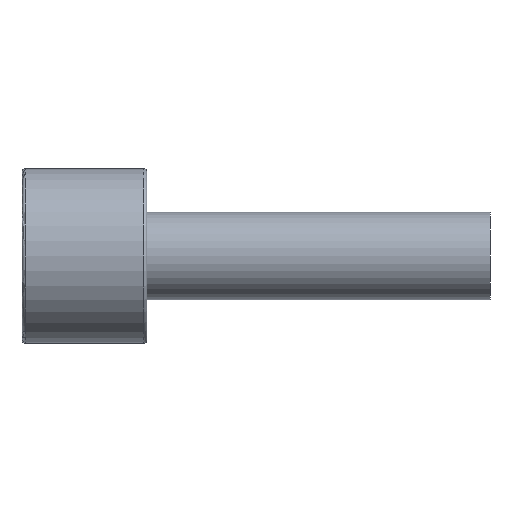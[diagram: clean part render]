
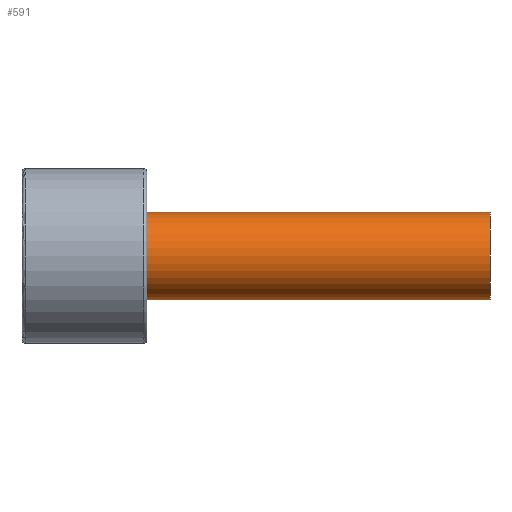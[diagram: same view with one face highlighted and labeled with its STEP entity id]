
A CAD part, front view. The second image highlights one B-rep face of the part: STEP entity #591.
In plain terms, the highlighted cylindrical face has radius 7 mm (diameter 14 mm), a partial arc.
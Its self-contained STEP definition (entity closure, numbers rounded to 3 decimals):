
#425=CARTESIAN_POINT('Vertex',(75.,0.,7.)) ;
#428=CARTESIAN_POINT('Axis2P3D Location',(75.,0.,0.)) ;
#432=CARTESIAN_POINT('Vertex',(75.,-7.,0.)) ;
#435=CARTESIAN_POINT('Axis2P3D Location',(75.,0.,0.)) ;
#439=CARTESIAN_POINT('Vertex',(75.,0.,-7.)) ;
#531=CARTESIAN_POINT('Line Origine',(75.,0.,7.)) ;
#535=CARTESIAN_POINT('Vertex',(20.,0.,7.)) ;
#538=CARTESIAN_POINT('Line Origine',(75.,0.,-7.)) ;
#542=CARTESIAN_POINT('Vertex',(20.,0.,-7.)) ;
#566=CARTESIAN_POINT('Axis2P3D Location',(75.,0.,0.)) ;
#571=CARTESIAN_POINT('Axis2P3D Location',(20.,0.,0.)) ;
#575=CARTESIAN_POINT('Vertex',(20.,-7.,0.)) ;
#578=CARTESIAN_POINT('Axis2P3D Location',(20.,0.,0.)) ;
#429=DIRECTION('Axis2P3D Direction',(1.,0.,-0.)) ;
#436=DIRECTION('Axis2P3D Direction',(1.,0.,-0.)) ;
#532=DIRECTION('Vector Direction',(-1.,0.,0.)) ;
#539=DIRECTION('Vector Direction',(-1.,0.,0.)) ;
#567=DIRECTION('Axis2P3D Direction',(-1.,-0.,-0.)) ;
#568=DIRECTION('Axis2P3D XDirection',(0.,0.,-1.)) ;
#572=DIRECTION('Axis2P3D Direction',(-1.,-0.,-0.)) ;
#579=DIRECTION('Axis2P3D Direction',(-1.,-0.,-0.)) ;
#430=AXIS2_PLACEMENT_3D('Circle Axis2P3D',#428,#429,$) ;
#437=AXIS2_PLACEMENT_3D('Circle Axis2P3D',#435,#436,$) ;
#569=AXIS2_PLACEMENT_3D('Cylinder Axis2P3D',#566,#567,#568) ;
#573=AXIS2_PLACEMENT_3D('Circle Axis2P3D',#571,#572,$) ;
#580=AXIS2_PLACEMENT_3D('Circle Axis2P3D',#578,#579,$) ;
#584=ORIENTED_EDGE('',*,*,#544,.T.) ;
#585=ORIENTED_EDGE('',*,*,#441,.F.) ;
#586=ORIENTED_EDGE('',*,*,#434,.F.) ;
#587=ORIENTED_EDGE('',*,*,#537,.T.) ;
#588=ORIENTED_EDGE('',*,*,#577,.T.) ;
#589=ORIENTED_EDGE('',*,*,#582,.T.) ;
#533=VECTOR('Line Direction',#532,1.) ;
#540=VECTOR('Line Direction',#539,1.) ;
#591=ADVANCED_FACE('367-14X75',(#590),#570,.T.) ;
#431=CIRCLE('generated circle',#430,7.) ;
#438=CIRCLE('generated circle',#437,7.) ;
#574=CIRCLE('generated circle',#573,7.) ;
#581=CIRCLE('generated circle',#580,7.) ;
#570=CYLINDRICAL_SURFACE('generated cylinder',#569,7.) ;
#434=EDGE_CURVE('',#426,#433,#431,.T.) ;
#441=EDGE_CURVE('',#433,#440,#438,.T.) ;
#537=EDGE_CURVE('',#426,#536,#534,.T.) ;
#544=EDGE_CURVE('',#543,#440,#541,.F.) ;
#577=EDGE_CURVE('',#536,#576,#574,.F.) ;
#582=EDGE_CURVE('',#576,#543,#581,.F.) ;
#583=EDGE_LOOP('',(#584,#585,#586,#587,#588,#589)) ;
#590=FACE_OUTER_BOUND('',#583,.T.) ;
#534=LINE('Line',#531,#533) ;
#541=LINE('Line',#538,#540) ;
#426=VERTEX_POINT('',#425) ;
#433=VERTEX_POINT('',#432) ;
#440=VERTEX_POINT('',#439) ;
#536=VERTEX_POINT('',#535) ;
#543=VERTEX_POINT('',#542) ;
#576=VERTEX_POINT('',#575) ;
